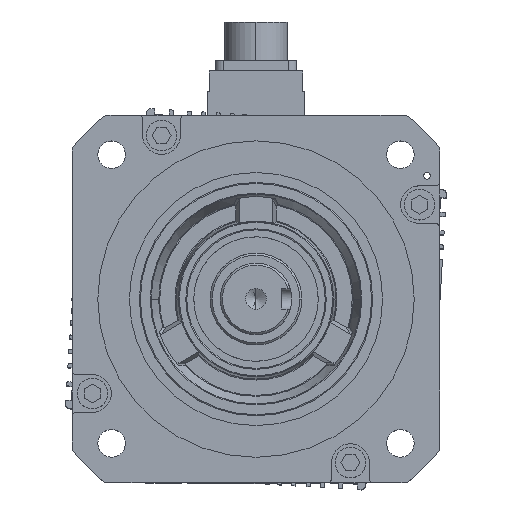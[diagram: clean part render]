
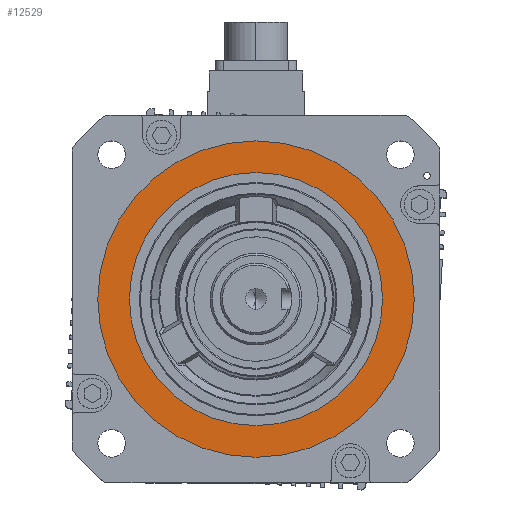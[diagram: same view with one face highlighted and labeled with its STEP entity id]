
A CAD part, top view. The second image highlights one B-rep face of the part: STEP entity #12529.
In plain terms, the highlighted planar face has unit normal (0, 0, 1) as drawn and (0, 0, -1) by its records, which use the part's own axes.
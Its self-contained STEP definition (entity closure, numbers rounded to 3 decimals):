
#3123 = CARTESIAN_POINT ( 'NONE',  ( -77.5, 0., 3.8 ) ) ;
#3921 = ORIENTED_EDGE ( 'NONE', *, *, #29324, .T. ) ;
#4534 = CARTESIAN_POINT ( 'NONE',  ( 0., 0., 3.8 ) ) ;
#6583 = EDGE_LOOP ( 'NONE', ( #3921, #12258 ) ) ;
#6896 = DIRECTION ( 'NONE',  ( 1., 0., 0. ) ) ;
#8555 = EDGE_CURVE ( 'NONE', #47272, #19673, #27348, .T. ) ;
#10265 = DIRECTION ( 'NONE',  ( 1., 0., 0. ) ) ;
#10633 = DIRECTION ( 'NONE',  ( -1., 0., 0. ) ) ;
#11100 = CARTESIAN_POINT ( 'NONE',  ( 77.5, 0., 3.8 ) ) ;
#12258 = ORIENTED_EDGE ( 'NONE', *, *, #17503, .T. ) ;
#12529 = ADVANCED_FACE ( 'NONE', ( #39725, #35422 ), #37625, .T. ) ;
#15395 = CARTESIAN_POINT ( 'NONE',  ( 0., 0., 3.8 ) ) ;
#15835 = VERTEX_POINT ( 'NONE', #57331 ) ;
#17503 = EDGE_CURVE ( 'NONE', #38256, #15835, #55085, .T. ) ;
#18449 = EDGE_CURVE ( 'NONE', #19673, #47272, #55653, .T. ) ;
#19673 = VERTEX_POINT ( 'NONE', #11100 ) ;
#20080 = AXIS2_PLACEMENT_3D ( 'NONE', #29700, #34269, #6896 ) ;
#23202 = DIRECTION ( 'NONE',  ( 0., 0., 1. ) ) ;
#26180 = CARTESIAN_POINT ( 'NONE',  ( -62., 0., 3.8 ) ) ;
#27348 = CIRCLE ( 'NONE', #57911, 77.5 ) ;
#28091 = CARTESIAN_POINT ( 'NONE',  ( 0., 0., 3.8 ) ) ;
#28930 = EDGE_LOOP ( 'NONE', ( #54700, #56322 ) ) ;
#29324 = EDGE_CURVE ( 'NONE', #15835, #38256, #44091, .T. ) ;
#29700 = CARTESIAN_POINT ( 'NONE',  ( 0., 0., 3.8 ) ) ;
#30323 = AXIS2_PLACEMENT_3D ( 'NONE', #46733, #33226, #10633 ) ;
#33226 = DIRECTION ( 'NONE',  ( 0., 0., -1. ) ) ;
#34269 = DIRECTION ( 'NONE',  ( 0., 0., 1. ) ) ;
#34314 = DIRECTION ( 'NONE',  ( 0., 0., 1. ) ) ;
#35422 = FACE_OUTER_BOUND ( 'NONE', #28930, .T. ) ;
#37625 = PLANE ( 'NONE',  #30323 ) ;
#38256 = VERTEX_POINT ( 'NONE', #26180 ) ;
#39725 = FACE_BOUND ( 'NONE', #6583, .T. ) ;
#44091 = CIRCLE ( 'NONE', #20080, 62. ) ;
#46598 = AXIS2_PLACEMENT_3D ( 'NONE', #4534, #23202, #58744 ) ;
#46733 = CARTESIAN_POINT ( 'NONE',  ( 0., 62., 3.8 ) ) ;
#47272 = VERTEX_POINT ( 'NONE', #3123 ) ;
#47604 = DIRECTION ( 'NONE',  ( 1., 0., 0. ) ) ;
#54700 = ORIENTED_EDGE ( 'NONE', *, *, #18449, .F. ) ;
#54955 = AXIS2_PLACEMENT_3D ( 'NONE', #15395, #56267, #10265 ) ;
#55085 = CIRCLE ( 'NONE', #54955, 62. ) ;
#55653 = CIRCLE ( 'NONE', #46598, 77.5 ) ;
#56267 = DIRECTION ( 'NONE',  ( 0., 0., 1. ) ) ;
#56322 = ORIENTED_EDGE ( 'NONE', *, *, #8555, .F. ) ;
#57331 = CARTESIAN_POINT ( 'NONE',  ( 62., 0., 3.8 ) ) ;
#57911 = AXIS2_PLACEMENT_3D ( 'NONE', #28091, #34314, #47604 ) ;
#58744 = DIRECTION ( 'NONE',  ( 1., 0., 0. ) ) ;
